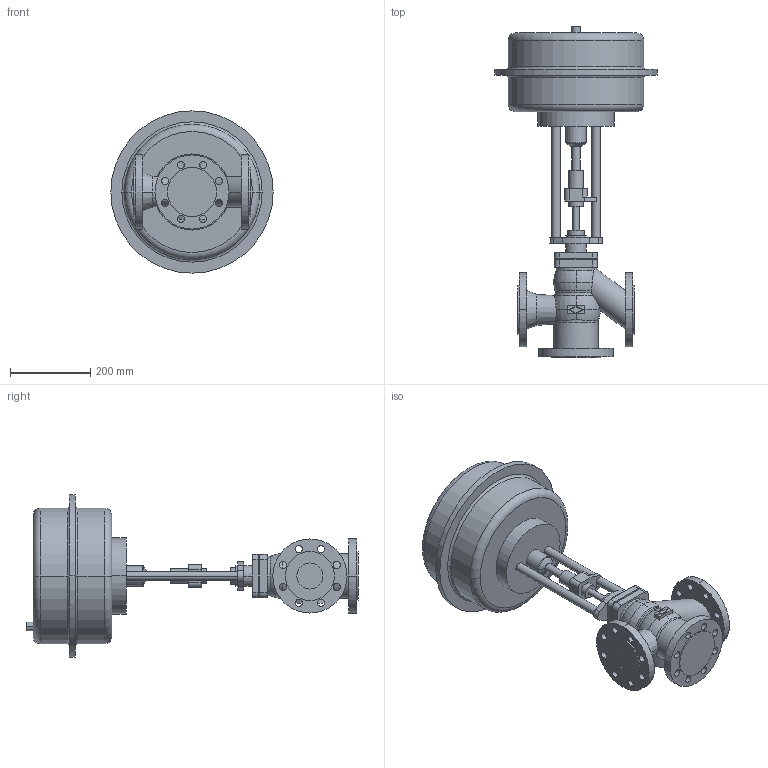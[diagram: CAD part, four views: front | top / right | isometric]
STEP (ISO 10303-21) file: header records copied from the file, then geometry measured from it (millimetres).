
FILE_DESCRIPTION(('OneSpaceDesigner STEP Export'),'2;1');
FILE_NAME('c000000699.stp','2006-09-19T10:19:42',(''),(''),'OneSpace Designer STEP processor for AP214 (Solid Model)','OneSpace Designer 13.20A 18-Aug-2005 (C) CoCreate Software GmbH','');
FILE_SCHEMA(('AUTOMOTIVE_DESIGN { 1 0 10303 214 1 1 1 1 }'));
Length unit declared in the file: millimetre
Products named in the file (2): 1; 2
Bounding box: 405 x 828.5 x 405 mm (x, y, z)
Volume: 24589897.9 mm3; surface area: 901510.6 mm2
Topology: 2 solids, 2 shells, 229 faces, 573 edges, 376 vertices
Faces by surface type: cylinder 120, plane 72, torus 31, cone 6
Entity records: 6338 total; most frequent: CARTESIAN_POINT 1316, ORIENTED_EDGE 1146, DIRECTION 890, EDGE_CURVE 573, VERTEX_POINT 376, AXIS2_PLACEMENT_3D 330, EDGE_LOOP 305, VECTOR 230
